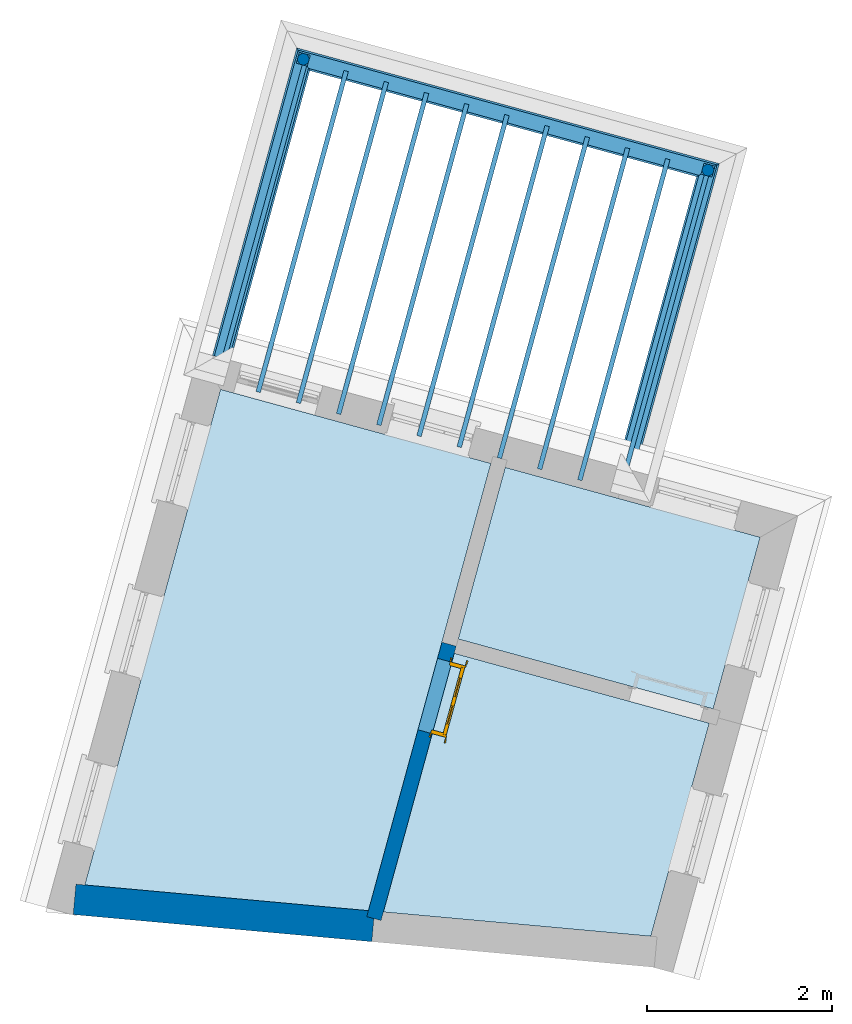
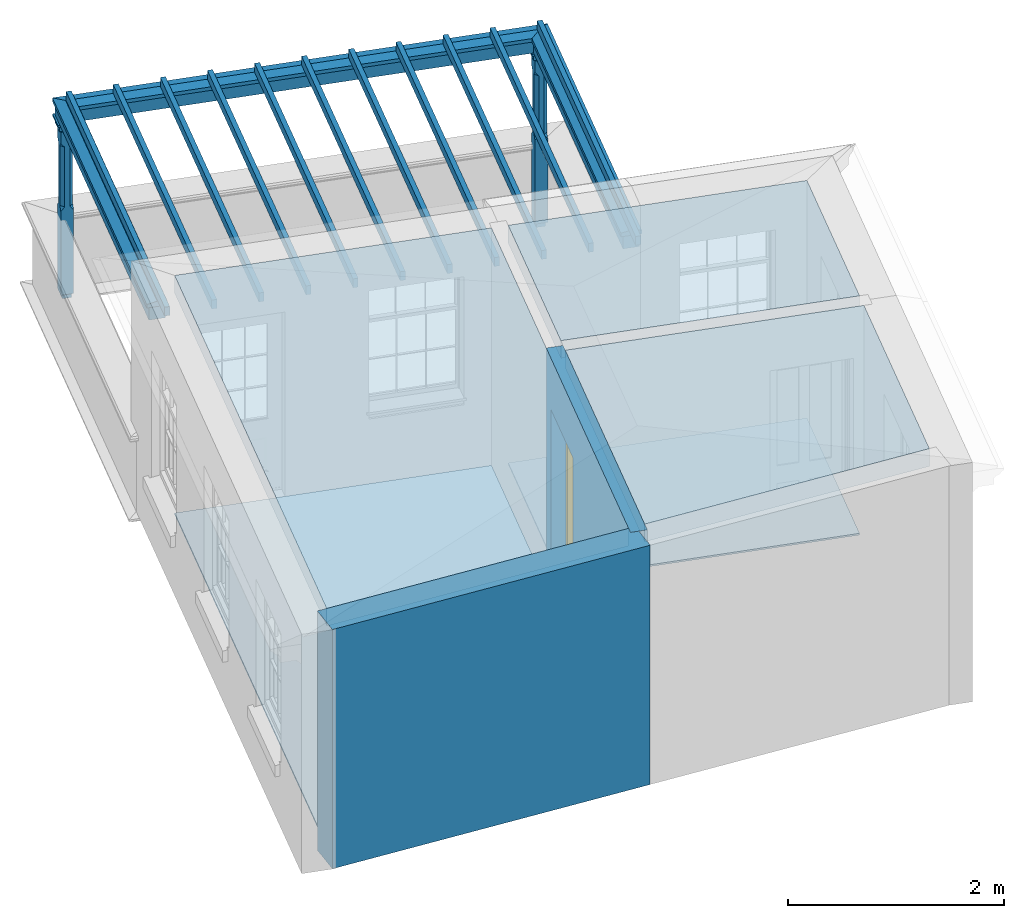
# One storey, part 1 of 4: 17 beams, 5 slabs, 2 columns, 2 walls, 1 door, 1 opening.
"""IFC4 building model written with IfcOpenShell, lengths in metres."""

from ifc_helpers import new_model, si_unit, frame, origin, origin_with_axes, place, context, subcontext, project, spatial, polyline, outline, extrude, clip, halfspace, faceted_brep, source, transform, mapped, material, layer, layer_set, layer_usage, material_profile, profile_set, profile_usage, type_object, type_shapes, element, fill, save


model = new_model("IFC4")

# Units and contexts
model_context = context("Model", 3, world=origin_with_axes())
body_context = subcontext(model_context, "Body", "Model", "MODEL_VIEW")
ifc_project = project(units=[si_unit("PLANEANGLEUNIT", "RADIAN"), si_unit("MASSUNIT", "GRAM", prefix="KILO"), si_unit("FORCEUNIT", "NEWTON", prefix="KILO"), si_unit("LENGTHUNIT", "METRE"), si_unit("AREAUNIT", "SQUARE_METRE"), si_unit("VOLUMEUNIT", "CUBIC_METRE")], contexts=[model_context, model_context])

# Sites, building, storey
site_1_placement = place(None, origin_with_axes())
site_1 = spatial("IfcSite", under=ifc_project, at=site_1_placement, Name="Tamar")
site_2_placement = place(site_1_placement, origin_with_axes())
site_2 = spatial("IfcSite", under=site_1, at=site_2_placement, Name="Site plot-28", CompositionType="ELEMENT")
building_placement = place(None, origin_with_axes())
building = spatial("IfcBuilding", under=site_2, at=building_placement, Name="Building plot-28", CompositionType="ELEMENT")
storey_placement = place(None, frame((0.0, 0.0, 29.85), z_axis=(0.0, 0.0, 1.0), x_axis=(1.0, 0.0, 0.0)))
storey = spatial("IfcBuildingStorey", under=building, at=storey_placement, Name="plot-28 2", CompositionType="ELEMENT", Elevation=29.85)

# Columns
column_type = type_object("IfcColumnType", Name="pergola post", PredefinedType="NOTDEFINED")
shared_shape_1 = source(origin(), body_context, "Body", "Brep", [
    faceted_brep([(0.0246, -0.0615, 1.72), (0.0615, -0.0246, 1.72), (0.0615, -0.0615, 1.766667), (0.0615, -0.0246, 1.044444), (0.0246, -0.0615, 1.044444), (0.0615, 0.0246, 1.72), (0.0615, 0.0615, 1.766667), (-0.0246, -0.0615, 1.72), (-0.0615, -0.0615, 1.766667), (-0.0246, -0.0615, 1.044444), (0.0615, -0.0615, 0.997778), (0.0615, 0.0246, 1.044444), (0.0246, 0.0615, 1.72), (0.0615, 0.0615, 1.891111), (0.0615, -0.0615, 1.891111), (-0.0615, -0.0615, 1.891111), (-0.0615, -0.0246, 1.72), (-0.0615, -0.0246, 1.044444), (-0.0615, -0.0615, 0.997778), (0.0615, 0.0615, 0.997778), (0.0246, 0.0615, 1.044444), (-0.0246, 0.0615, 1.72), (-0.0615, 0.0615, 1.766667), (0.04305, 0.04305, 1.891111), (0.04305, -0.04305, 1.891111), (-0.0615, 0.0615, 1.891111), (-0.04305, -0.04305, 1.891111), (-0.0615, 0.0246, 1.72), (-0.0615, 0.0246, 1.044444), (0.0615, -0.0615, 0.053333), (-0.0615, -0.0615, 0.053333), (0.0615, 0.0615, 0.053333), (-0.0246, 0.0615, 1.044444), (-0.04305, 0.04305, 1.891111), (0.04305, 0.04305, 1.914444), (0.04305, -0.04305, 1.914444), (-0.04305, -0.04305, 1.914444), (-0.0615, 0.0615, 0.997778), (-0.0615, 0.0615, 0.053333), (-0.04305, -0.04305, 0.053333), (0.04305, -0.04305, 0.053333), (0.04305, 0.04305, 0.053333), (-0.04305, 0.04305, 1.914444), (0.07995, 0.07995, 1.914444), (0.07995, -0.07995, 1.914444), (-0.07995, -0.07995, 1.914444), (-0.04305, 0.04305, 0.053333), (-0.04305, -0.04305, 0.0), (0.04305, -0.04305, 0.0), (0.04305, 0.04305, 0.0), (-0.07995, 0.07995, 1.914444), (0.07995, 0.07995, 1.976667), (0.07995, -0.07995, 1.976667), (-0.07995, -0.07995, 1.976667), (-0.04305, 0.04305, 0.0), (-0.07995, 0.07995, 1.976667), (0.0984, 0.0984, 1.976667), (0.0984, -0.0984, 1.976667), (-0.0984, -0.0984, 1.976667), (-0.0984, 0.0984, 1.976667), (0.0984, 0.0984, 2.0), (0.0984, -0.0984, 2.0), (-0.0984, -0.0984, 2.0), (-0.0984, 0.0984, 2.0)], [[[0, 1, 2]], [[3, 1, 0, 4]], [[1, 5, 6, 2]], [[7, 0, 2, 8]], [[4, 0, 7, 9]], [[3, 4, 10]], [[1, 3, 11, 5]], [[5, 12, 6]], [[13, 14, 2, 6]], [[15, 8, 2, 14]], [[8, 16, 7]], [[9, 7, 16, 17]], [[9, 18, 10, 4]], [[3, 10, 19, 11]], [[20, 12, 5, 11]], [[21, 22, 6, 12]], [[14, 13, 23, 24]], [[13, 6, 22, 25]], [[25, 22, 8, 15]], [[26, 15, 14, 24]], [[16, 8, 22, 27]], [[27, 28, 17, 16]], [[17, 18, 9]], [[29, 10, 18, 30]], [[31, 19, 10, 29]], [[20, 11, 19]], [[12, 20, 32, 21]], [[21, 27, 22]], [[33, 23, 13, 25]], [[23, 34, 35, 24]], [[26, 33, 25, 15]], [[36, 26, 24, 35]], [[28, 27, 21, 32]], [[17, 28, 37, 18]], [[38, 30, 18, 37]], [[29, 30, 39, 40]], [[31, 38, 37, 19]], [[40, 41, 31, 29]], [[32, 20, 19, 37]], [[33, 42, 34, 23]], [[43, 44, 35, 34]], [[42, 33, 26, 36]], [[36, 35, 44, 45]], [[28, 32, 37]], [[46, 39, 30, 38]], [[39, 47, 48, 40]], [[46, 38, 31, 41]], [[49, 41, 40, 48]], [[43, 34, 42, 50]], [[43, 51, 52, 44]], [[45, 50, 42, 36]], [[53, 45, 44, 52]], [[46, 54, 47, 39]], [[54, 46, 41, 49]], [[50, 55, 51, 43]], [[56, 57, 52, 51]], [[55, 50, 45, 53]], [[53, 52, 57, 58]], [[56, 51, 55, 59]], [[56, 60, 61, 57]], [[58, 59, 55, 53]], [[62, 58, 57, 61]], [[59, 63, 60, 56]], [[63, 62, 61, 60]], [[58, 62, 63, 59]], [[47, 54, 49, 48]]]),
])
type_shapes(column_type, [shared_shape_1])
for number, where, z_axis, x_axis, name in (
    (1, (265.918112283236, 267.466264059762, 0.0), (0.0, 0.0, 1.0), (-0.964452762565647, 0.264255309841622, 0.0), "pergola post"),
    (2, (261.549386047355, 268.663273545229, 0.0), (0.0, 0.0, 1.0), (-0.26425530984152, -0.964452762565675, 0.0), "pergola post"),
):
    element("IfcColumn", number, at=place(storey_placement, frame(where, z_axis=z_axis, x_axis=x_axis)), inside=storey, type_object=column_type, Name=name, context=body_context, shape_type="MappedRepresentation", body=[
        mapped(shared_shape_1, transform((0.0, 0.0, 0.0), scale=1.0)),
    ])

# Beams
ifc_material_profile_1 = material_profile(None, outline(polyline([(-0.08, -0.7), (0.08, -0.7), (0.08, -0.56), (-0.08, -0.56), (-0.08, -0.7)])))
ifc_profile_set_1 = profile_set([ifc_material_profile_1])
ifc_profile_usage_1 = profile_usage(ifc_profile_set_1)
beam_type_1 = type_object("IfcBeamType", Name="pergola beam_0", PredefinedType="NOTDEFINED", material=ifc_profile_set_1)
beam_1_placement = place(storey_placement, frame((266.182367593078, 268.430716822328, 2.7), z_axis=(-0.264255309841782, -0.964452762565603, 0.0), x_axis=(0.964452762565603, -0.264255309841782, 0.0)))
element("IfcBeam", 3, at=beam_1_placement, inside=storey, type_object=beam_type_1, material=ifc_profile_usage_1, Name="pergola beam_0", context=body_context, shape_type="Clipping", body=[
    clip(clip(extrude(outline(polyline([(-0.08, -0.7), (0.08, -0.7), (0.08, -0.56), (-0.08, -0.56), (-0.08, -0.7)])), origin_with_axes(), (0.0, 0.0, 1.0), 5.34326696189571), halfspace(frame((0.0, 0.0, 4.34326696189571), z_axis=(-2.24877374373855e-14, 0.0, -1.0), x_axis=(0.0, 1.0, 0.0)), True)), halfspace(frame((0.0, 0.0, 1.0), z_axis=(-0.707106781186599, 0.0, -0.707106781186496), x_axis=(0.0, 1.0, 0.0)), False)),
])
ifc_profile_usage_2 = profile_usage(ifc_profile_set_1)
beam_2_placement = place(storey_placement, frame((260.584933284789, 268.927528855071, 2.7), z_axis=(0.964452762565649, -0.264255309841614, 0.0), x_axis=(0.264255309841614, 0.964452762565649, 0.0)))
element("IfcBeam", 4, at=beam_2_placement, inside=storey, type_object=beam_type_1, material=ifc_profile_usage_2, Name="pergola beam_0", context=body_context, shape_type="Clipping", body=[
    clip(clip(extrude(outline(polyline([(-0.08, -0.7), (0.08, -0.7), (0.08, -0.56), (-0.08, -0.56), (-0.08, -0.7)])), origin_with_axes(), (0.0, 0.0, 1.0), 6.5297461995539), halfspace(frame((0.0, 0.0, 5.5297461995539), z_axis=(0.707106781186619, 0.0, -0.707106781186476), x_axis=(0.0, 1.0, 0.0)), True)), halfspace(frame((0.0, 0.0, 1.0), z_axis=(-0.707106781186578, 0.0, -0.707106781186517), x_axis=(0.0, 1.0, 0.0)), False)),
])
ifc_profile_usage_3 = profile_usage(ifc_profile_set_1)
beam_3_placement = place(storey_placement, frame((260.401654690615, 264.474397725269, 2.7), z_axis=(0.264255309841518, 0.964452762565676, 0.0), x_axis=(-0.964452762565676, 0.264255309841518, 0.0)))
element("IfcBeam", 5, at=beam_3_placement, inside=storey, type_object=beam_type_1, material=ifc_profile_usage_3, Name="pergola beam_0", context=body_context, shape_type="Clipping", body=[
    clip(clip(extrude(outline(polyline([(-0.08, -0.7), (0.08, -0.7), (0.08, -0.56), (-0.08, -0.56), (-0.08, -0.7)])), origin_with_axes(), (0.0, 0.0, 1.0), 5.3432669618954), halfspace(frame((0.0, 0.0, 4.3432669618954), z_axis=(0.707106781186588, 0.0, -0.707106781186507), x_axis=(0.0, 1.0, 0.0)), True)), halfspace(frame((0.0, 0.0, 1.0), z_axis=(1.6814157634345e-14, 0.0, -1.0), x_axis=(0.0, 1.0, 0.0)), False)),
])
ifc_material_profile_2 = material_profile(None, outline(polyline([(0.0, -0.5), (-0.1, -0.52), (-0.1, -0.56), (0.1, -0.56), (0.1, -0.52), (0.0, -0.5)])))
ifc_profile_set_2 = profile_set([ifc_material_profile_2])
ifc_profile_usage_4 = profile_usage(ifc_profile_set_2)
beam_type_2 = type_object("IfcBeamType", Name="pergola beam_1", PredefinedType="NOTDEFINED", material=ifc_profile_set_2)
beam_4_placement = place(storey_placement, frame((266.182367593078, 268.430716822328, 2.7), z_axis=(-0.264255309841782, -0.964452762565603, 0.0), x_axis=(0.964452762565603, -0.264255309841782, 0.0)))
element("IfcBeam", 6, at=beam_4_placement, inside=storey, type_object=beam_type_2, material=ifc_profile_usage_4, Name="pergola beam_1", context=body_context, shape_type="Clipping", body=[
    clip(clip(extrude(outline(polyline([(0.0, -0.5), (-0.1, -0.52), (-0.1, -0.56), (0.1, -0.56), (0.1, -0.52), (0.0, -0.5)])), origin_with_axes(), (0.0, 0.0, 1.0), 5.34326696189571), halfspace(frame((0.0, 0.0, 4.34326696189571), z_axis=(-2.24877374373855e-14, 0.0, -1.0), x_axis=(0.0, 1.0, 0.0)), True)), halfspace(frame((0.0, 0.0, 1.0), z_axis=(-0.707106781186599, 0.0, -0.707106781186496), x_axis=(0.0, 1.0, 0.0)), False)),
])
ifc_profile_usage_5 = profile_usage(ifc_profile_set_2)
beam_5_placement = place(storey_placement, frame((260.584933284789, 268.927528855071, 2.7), z_axis=(0.964452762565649, -0.264255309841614, 0.0), x_axis=(0.264255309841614, 0.964452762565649, 0.0)))
element("IfcBeam", 7, at=beam_5_placement, inside=storey, type_object=beam_type_2, material=ifc_profile_usage_5, Name="pergola beam_1", context=body_context, shape_type="Clipping", body=[
    clip(clip(extrude(outline(polyline([(0.0, -0.5), (-0.1, -0.52), (-0.1, -0.56), (0.1, -0.56), (0.1, -0.52), (0.0, -0.5)])), origin_with_axes(), (0.0, 0.0, 1.0), 6.5297461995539), halfspace(frame((0.0, 0.0, 5.5297461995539), z_axis=(0.707106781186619, 0.0, -0.707106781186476), x_axis=(0.0, 1.0, 0.0)), True)), halfspace(frame((0.0, 0.0, 1.0), z_axis=(-0.707106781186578, 0.0, -0.707106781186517), x_axis=(0.0, 1.0, 0.0)), False)),
])
ifc_profile_usage_6 = profile_usage(ifc_profile_set_2)
beam_6_placement = place(storey_placement, frame((260.401654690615, 264.474397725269, 2.7), z_axis=(0.264255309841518, 0.964452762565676, 0.0), x_axis=(-0.964452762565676, 0.264255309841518, 0.0)))
element("IfcBeam", 8, at=beam_6_placement, inside=storey, type_object=beam_type_2, material=ifc_profile_usage_6, Name="pergola beam_1", context=body_context, shape_type="Clipping", body=[
    clip(clip(extrude(outline(polyline([(0.0, -0.5), (-0.1, -0.52), (-0.1, -0.56), (0.1, -0.56), (0.1, -0.52), (0.0, -0.5)])), origin_with_axes(), (0.0, 0.0, 1.0), 5.3432669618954), halfspace(frame((0.0, 0.0, 4.3432669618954), z_axis=(0.707106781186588, 0.0, -0.707106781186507), x_axis=(0.0, 1.0, 0.0)), True)), halfspace(frame((0.0, 0.0, 1.0), z_axis=(1.6814157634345e-14, 0.0, -1.0), x_axis=(0.0, 1.0, 0.0)), False)),
])
beam_7_placement = place(storey_placement, frame((265.9422236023, 267.459657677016, 2.2)))
element("IfcBeam", 9, at=beam_7_placement, inside=storey, Name="My Beam", ObjectType="Beam", context=body_context, shape_type="SweptSolid", body=[
    extrude(outline(polyline([(0.0, 0.0), (-0.0482226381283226, 0.0132127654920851), (-0.997762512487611, -3.4523234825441), (-0.949539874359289, -3.46553624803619), (0.0, 0.0)])), origin_with_axes(), (0.0, 0.0, 1.0), 0.1),
])
beam_8_placement = place(storey_placement, frame((265.508219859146, 267.578572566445, 2.2)))
element("IfcBeam", 10, at=beam_8_placement, inside=storey, Name="My Beam", ObjectType="Beam", context=body_context, shape_type="SweptSolid", body=[
    extrude(outline(polyline([(0.0, 0.0), (-0.0482226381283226, 0.0132127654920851), (-0.997762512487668, -3.45232348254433), (-0.949539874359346, -3.46553624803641), (0.0, 0.0)])), origin_with_axes(), (0.0, 0.0, 1.0), 0.1),
])
beam_9_placement = place(storey_placement, frame((265.074216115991, 267.697487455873, 2.2)))
element("IfcBeam", 11, at=beam_9_placement, inside=storey, Name="My Beam", ObjectType="Beam", context=body_context, shape_type="SweptSolid", body=[
    extrude(outline(polyline([(0.0, 0.0), (-0.0482226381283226, 0.0132127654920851), (-0.997762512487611, -3.45232348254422), (-0.949539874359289, -3.4655362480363), (0.0, 0.0)])), origin_with_axes(), (0.0, 0.0, 1.0), 0.1),
])
beam_10_placement = place(storey_placement, frame((264.640212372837, 267.816402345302, 2.2)))
element("IfcBeam", 12, at=beam_10_placement, inside=storey, Name="My Beam", ObjectType="Beam", context=body_context, shape_type="SweptSolid", body=[
    extrude(outline(polyline([(0.0, 0.0), (-0.0482226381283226, 0.0132127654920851), (-0.997762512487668, -3.45232348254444), (-0.949539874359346, -3.46553624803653), (0.0, 0.0)])), origin_with_axes(), (0.0, 0.0, 1.0), 0.1),
])
for number, where, name in (
    (13, (264.206208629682, 267.935317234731, 2.2), "My Beam"),
    (14, (263.772204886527, 268.05423212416, 2.2), "My Beam"),
):
    element("IfcBeam", number, at=place(storey_placement, frame(where)), inside=storey, Name=name, ObjectType="Beam", context=body_context, shape_type="SweptSolid", body=[
        extrude(outline(polyline([(0.0, 0.0), (-0.0482226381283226, 0.0132127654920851), (-0.997762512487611, -3.4523234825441), (-0.949539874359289, -3.46553624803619), (0.0, 0.0)])), origin_with_axes(), (0.0, 0.0, 1.0), 0.1),
    ])
beam_11_placement = place(storey_placement, frame((263.338201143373, 268.173147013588, 2.2)))
element("IfcBeam", 15, at=beam_11_placement, inside=storey, Name="My Beam", ObjectType="Beam", context=body_context, shape_type="SweptSolid", body=[
    extrude(outline(polyline([(0.0, 0.0), (-0.0482226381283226, 0.0132127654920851), (-0.997762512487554, -3.45232348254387), (-0.949539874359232, -3.46553624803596), (0.0, 0.0)])), origin_with_axes(), (0.0, 0.0, 1.0), 0.1),
])
beam_12_placement = place(storey_placement, frame((262.904197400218, 268.292061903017, 2.2)))
element("IfcBeam", 16, at=beam_12_placement, inside=storey, Name="My Beam", ObjectType="Beam", context=body_context, shape_type="SweptSolid", body=[
    extrude(outline(polyline([(0.0, 0.0), (-0.0482226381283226, 0.0132127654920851), (-0.997762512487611, -3.4523234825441), (-0.949539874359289, -3.46553624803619), (0.0, 0.0)])), origin_with_axes(), (0.0, 0.0, 1.0), 0.1),
])
for number, where, name in (
    (17, (262.470193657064, 268.410976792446, 2.2), "My Beam"),
    (18, (262.036189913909, 268.529891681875, 2.2), "My Beam"),
    (19, (261.602186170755, 268.648806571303, 2.2), "My Beam"),
):
    element("IfcBeam", number, at=place(storey_placement, frame(where)), inside=storey, Name=name, ObjectType="Beam", context=body_context, shape_type="SweptSolid", body=[
        extrude(outline(polyline([(0.0, 0.0), (-0.0482226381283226, 0.0132127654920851), (-0.997762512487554, -3.45232348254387), (-0.949539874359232, -3.46553624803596), (0.0, 0.0)])), origin_with_axes(), (0.0, 0.0, 1.0), 0.1),
    ])

# Slabs
slab_1_placement = place(storey_placement, frame((259.189981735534, 259.749416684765, 2.5)))
element("IfcSlab", 20, at=slab_1_placement, inside=storey, Name="My Slab", ObjectType="Slab", PredefinedType="FLOOR", context=body_context, shape_type="SweptSolid", body=[
    extrude(outline(polyline([(0.0, 0.0), (3.06223774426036, -0.277500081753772), (4.38500341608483, 4.55019858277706), (1.46588023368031, 5.35002396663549), (0.0, 0.0)])), origin_with_axes(), (0.0, 0.0, 1.0), 0.2),
])
slab_2_placement = place(storey_placement, frame((259.189981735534, 259.749416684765, 0.0)))
element("IfcSlab", 21, at=slab_2_placement, inside=storey, Name="My Slab", ObjectType="Slab", PredefinedType="FLOOR", context=body_context, shape_type="SweptSolid", body=[
    extrude(outline(polyline([(0.0, 0.0), (3.06223774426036, -0.277500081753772), (4.38500341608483, 4.55019858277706), (1.46588023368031, 5.35002396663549), (0.0, 0.0)])), origin_with_axes(), (0.0, 0.0, 1.0), 0.02),
])
slab_3_placement = place(storey_placement, frame((265.301564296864, 259.19558487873, 2.5)))
element("IfcSlab", 22, at=slab_3_placement, inside=storey, Name="My Slab", ObjectType="Slab", PredefinedType="FLOOR", context=body_context, shape_type="SweptSolid", body=[
    extrude(outline(polyline([(0.0, 0.0), (0.630315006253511, 2.300461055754), (-2.12220536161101, 3.05463808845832), (-2.88746696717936, 0.261662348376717), (0.0, 0.0)])), origin_with_axes(), (0.0, 0.0, 1.0), 0.2),
])
slab_4_placement = place(storey_placement, frame((265.974160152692, 261.650358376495, 2.5)))
element("IfcSlab", 23, at=slab_4_placement, inside=storey, Name="My Slab", ObjectType="Slab", PredefinedType="FLOOR", context=body_context, shape_type="SweptSolid", body=[
    extrude(outline(polyline([(0.0, 0.0), (0.507657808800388, 1.85279900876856), (-2.24486255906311, 2.60697604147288), (-2.75252036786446, 0.754177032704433), (0.0, 0.0)])), origin_with_axes(), (0.0, 0.0, 1.0), 0.2),
])
slab_5_placement = place(storey_placement, frame((265.974160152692, 261.650358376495, 0.0)))
element("IfcSlab", 24, at=slab_5_placement, inside=storey, Name="My Slab", ObjectType="Slab", PredefinedType="FLOOR", context=body_context, shape_type="SweptSolid", body=[
    extrude(outline(polyline([(0.0, 0.0), (0.507657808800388, 1.85279900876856), (-2.24486255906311, 2.60697604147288), (-2.75252036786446, 0.754177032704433), (0.0, 0.0)])), origin_with_axes(), (0.0, 0.0, 1.0), 0.02),
])

# Wall
ifc_material_1 = material(Name="Masonry")
ifc_layer_1 = layer(ifc_material_1, 0.33, ventilated=False)
ifc_layer_set_1 = layer_set([ifc_layer_1], Name="party_0.08_0.25")
ifc_layer_usage_1 = layer_usage(ifc_layer_set_1, "AXIS2", "POSITIVE", -0.25)
wall_type_1 = type_object("IfcWallType", Name="party_0.08_0.25", PredefinedType="SOLIDWALL", material=ifc_layer_set_1)
wall_1_placement = place(storey_placement, frame((259.087566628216, 259.678369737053, 0.0), z_axis=(0.0, 0.0, 1.0), x_axis=(0.99591912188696, -0.0902502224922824, 0.0)))
element("IfcWall", 25, at=wall_1_placement, inside=storey, type_object=wall_type_1, material=ifc_layer_usage_1, Name="party", context=body_context, shape_type="SweptSolid", body=[
    extrude(outline(polyline([(1.58322380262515e-14, 0.0799999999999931), (-2.42487861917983e-14, -0.250000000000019), (3.23732672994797, -0.250000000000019), (3.23732672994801, 0.0799999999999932), (1.58322380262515e-14, 0.0799999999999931)])), origin_with_axes(), (0.0, 0.0, 1.0), 2.7),
])

# Wall, opening, door
ifc_material_2 = material(Name="Masonry")
ifc_layer_2 = layer(ifc_material_2, 0.16, ventilated=False)
ifc_layer_set_2 = layer_set([ifc_layer_2], Name="interior_0.08_0.08")
ifc_layer_usage_2 = layer_usage(ifc_layer_set_2, "AXIS2", "POSITIVE", -0.08)
wall_type_2 = type_object("IfcWallType", Name="interior_0.08_0.08", PredefinedType="SOLIDWALL", material=ifc_layer_set_2)
wall_2_placement = place(storey_placement, frame((263.123343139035, 262.348519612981, 0.0), z_axis=(0.0, 0.0, 1.0), x_axis=(-0.264255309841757, -0.96445276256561, 0.0)))
wall_2 = element("IfcWall", 26, at=wall_2_placement, inside=storey, type_object=wall_type_2, material=ifc_layer_usage_2, Name="interior", context=body_context, shape_type="SweptSolid", body=[
    extrude(outline(polyline([(1.28461277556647e-14, 0.0799999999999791), (-1.28914520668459e-14, -0.0799999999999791), (3.07150277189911, -0.0799999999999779), (3.07150277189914, 0.0799999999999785), (1.28461277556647e-14, 0.0799999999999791)])), origin_with_axes(), (0.0, 0.0, 1.0), 2.7),
])
opening_placement = place(wall_2_placement, frame((0.180000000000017, 0.0, 0.0199999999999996)))
opening = element("IfcOpeningElement", 27, at=opening_placement, cuts=wall_2, Name="My Opening", ObjectType="Opening", context=body_context, shape_type="SweptSolid", body=[
    extrude(outline(polyline([(0.0, -0.100000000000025), (0.799999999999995, -0.100000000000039), (0.799999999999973, 1.1), (-2.19546603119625e-14, 1.10000000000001), (0.0, -0.100000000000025)])), origin_with_axes(), (0.0, 0.0, 1.0), 2.1),
])
door_type = type_object("IfcDoorType", Name="door_inside", OperationType="SINGLE_SWING_LEFT", PredefinedType="NOTDEFINED")
shared_shape_2 = source(origin(), body_context, "Body", "Brep", [
    faceted_brep([(0.773, 0.33, 1.895), (0.66, 0.33, 1.895), (0.66, 0.33, 2.073), (0.773, 0.33, 2.073), (0.773, 0.33, 0.82), (0.66, 0.33, 0.82), (0.45, 0.33, 1.895), (0.45, 0.33, 2.073), (0.773, 0.33, 0.62), (0.66, 0.33, 0.62), (0.66, 0.315, 0.82), (0.66, 0.315, 1.895), (0.45, 0.315, 1.895), (0.35, 0.33, 1.895), (0.35, 0.33, 2.073), (0.773, 0.33, 0.225), (0.66, 0.33, 0.225), (0.45, 0.33, 0.62), (0.45, 0.33, 0.82), (0.45, 0.315, 0.82), (0.35, 0.33, 0.82), (0.14, 0.33, 2.073), (0.14, 0.33, 1.895), (0.773, 0.33, 0.0), (0.66, 0.33, 0.0), (0.66, 0.315, 0.225), (0.66, 0.315, 0.62), (0.45, 0.315, 0.62), (0.35, 0.33, 0.62), (0.35, 0.315, 0.82), (0.35, 0.315, 1.895), (0.14, 0.315, 1.895), (0.027, 0.33, 2.073), (0.027, 0.33, 1.895), (0.773, 0.292, 0.0), (0.66, 0.292, 0.0), (0.45, 0.33, 0.0), (0.45, 0.33, 0.225), (0.45, 0.315, 0.225), (0.35, 0.33, 0.225), (0.14, 0.33, 0.82), (0.14, 0.33, 0.62), (0.14, 0.315, 0.82), (0.027, 0.33, 0.82), (0.773, 0.292, 0.225), (0.66, 0.292, 0.225), (0.45, 0.292, 0.0), (0.35, 0.33, 0.0), (0.35, 0.315, 0.225), (0.35, 0.315, 0.62), (0.14, 0.315, 0.62), (0.027, 0.33, 0.62), (0.773, 0.292, 0.62), (0.66, 0.292, 0.62), (0.45, 0.292, 0.225), (0.35, 0.292, 0.0), (0.14, 0.33, 0.225), (0.14, 0.33, 0.0), (0.14, 0.315, 0.225), (0.027, 0.33, 0.225), (0.773, 0.292, 0.82), (0.66, 0.292, 0.82), (0.66, 0.307, 0.62), (0.66, 0.307, 0.225), (0.45, 0.307, 0.225), (0.35, 0.292, 0.225), (0.14, 0.292, 0.0), (0.027, 0.33, 0.0), (0.773, 0.292, 1.895), (0.66, 0.292, 1.895), (0.45, 0.292, 0.62), (0.45, 0.292, 0.82), (0.45, 0.307, 0.62), (0.35, 0.292, 0.62), (0.14, 0.292, 0.225), (0.027, 0.292, 0.0), (0.773, 0.292, 2.073), (0.66, 0.292, 2.073), (0.66, 0.307, 1.895), (0.66, 0.307, 0.82), (0.45, 0.307, 0.82), (0.35, 0.292, 0.82), (0.35, 0.307, 0.62), (0.35, 0.307, 0.225), (0.14, 0.307, 0.225), (0.027, 0.292, 0.225), (0.45, 0.292, 1.895), (0.45, 0.292, 2.073), (0.45, 0.307, 1.895), (0.35, 0.292, 1.895), (0.14, 0.292, 0.82), (0.14, 0.292, 0.62), (0.14, 0.307, 0.62), (0.027, 0.292, 0.62), (0.35, 0.292, 2.073), (0.35, 0.307, 1.895), (0.35, 0.307, 0.82), (0.14, 0.307, 0.82), (0.027, 0.292, 0.82), (0.14, 0.292, 2.073), (0.14, 0.292, 1.895), (0.14, 0.307, 1.895), (0.027, 0.292, 1.895), (0.027, 0.292, 2.073), (0.02, 0.335, 0.0), (0.005, 0.34, 0.0), (0.005, 0.34, 2.095), (0.02, 0.335, 2.08), (0.02, 0.33, 0.0), (0.0, 0.335, 0.0), (0.0, 0.335, 2.1), (0.795, 0.34, 2.095), (0.78, 0.335, 2.08), (0.02, 0.33, 2.08), (0.0, 0.33, 0.0), (-0.032, 0.345, 0.0), (-0.032, 0.345, 2.132), (0.8, 0.335, 2.1), (0.795, 0.34, 0.0), (0.78, 0.335, 0.0), (0.78, 0.33, 2.08), (0.04, 0.29, 0.0), (0.025, 0.29, 0.0), (0.025, 0.29, 2.075), (0.04, 0.29, 2.06), (-0.04, 0.34, 0.0), (-0.04, 0.34, 2.14), (0.832, 0.345, 2.132), (0.8, 0.335, 0.0), (0.78, 0.33, 0.0), (0.8, 0.33, 0.0), (0.86, 0.33, 0.0), (0.86, 0.33, 2.16), (0.8, 0.33, 2.1), (-0.06, 0.33, 2.16), (0.0, 0.33, 2.1), (-0.06, 0.33, 0.0), (-0.04, 0.345, 0.0), (-0.04, 0.345, 2.14), (0.84, 0.34, 2.14), (0.832, 0.345, 0.0), (0.84, 0.34, 0.0), (0.86, 0.345, 0.0), (0.86, 0.345, 2.16), (-0.06, 0.345, 2.16), (-0.06, 0.345, 0.0), (0.84, 0.345, 0.0), (0.84, 0.345, 2.14), (-0.025, 0.155, 0.0), (-0.025, 0.16, 0.0), (-0.025, 0.16, 2.125), (-0.025, 0.155, 2.125), (-0.017, 0.155, 0.0), (-0.017, 0.155, 2.117), (0.825, 0.16, 2.125), (0.825, 0.155, 2.125), (0.825, 0.155, 0.0), (0.845, 0.155, 0.0), (-0.045, 0.155, 2.145), (-0.045, 0.155, 0.0), (0.845, 0.155, 2.145), (0.015, 0.165, 0.0), (0.015, 0.165, 2.085), (0.817, 0.155, 2.117), (0.825, 0.16, 0.0), (0.845, 0.17, 0.0), (0.845, 0.17, 2.145), (-0.045, 0.17, 2.145), (-0.045, 0.17, 0.0), (0.02, 0.16, 0.0), (0.02, 0.16, 2.08), (0.785, 0.165, 2.085), (0.817, 0.155, 0.0), (0.8, 0.17, 0.0), (0.8, 0.17, 2.1), (0.0, 0.17, 2.1), (0.0, 0.17, 0.0), (0.035, 0.165, 0.0), (0.035, 0.165, 2.065), (0.78, 0.16, 2.08), (0.785, 0.165, 0.0), (0.775, 0.29, 2.075), (0.76, 0.29, 2.06), (0.035, 0.17, 2.065), (0.035, 0.17, 0.0), (0.765, 0.165, 2.065), (0.78, 0.16, 0.0), (0.765, 0.17, 0.0), (0.765, 0.17, 2.065), (0.765, 0.165, 0.0), (0.04, 0.17, 2.06), (0.04, 0.17, 0.0), (0.76, 0.17, 2.06), (0.76, 0.17, 0.0), (0.76, 0.29, 0.0), (0.775, 0.29, 0.0), (0.025, 0.33, 0.0), (0.025, 0.33, 2.075), (0.775, 0.33, 0.0), (0.775, 0.33, 2.075)], [[[0, 1, 2, 3]], [[1, 0, 4, 5]], [[1, 6, 7, 2]], [[8, 9, 5, 4]], [[1, 5, 10, 11]], [[6, 1, 11, 12]], [[6, 13, 14, 7]], [[15, 16, 9, 8]], [[9, 17, 18, 5]], [[5, 18, 19, 10]], [[10, 19, 12, 11]], [[18, 6, 12, 19]], [[18, 20, 13, 6]], [[21, 14, 13, 22]], [[23, 24, 16, 15]], [[9, 16, 25, 26]], [[17, 9, 26, 27]], [[17, 28, 20, 18]], [[13, 20, 29, 30]], [[22, 13, 30, 31]], [[32, 21, 22, 33]], [[34, 35, 24, 23]], [[24, 36, 37, 16]], [[16, 37, 38, 25]], [[25, 38, 27, 26]], [[37, 17, 27, 38]], [[37, 39, 28, 17]], [[40, 20, 28, 41]], [[20, 40, 42, 29]], [[31, 30, 29, 42]], [[40, 22, 31, 42]], [[33, 22, 40, 43]], [[35, 34, 44, 45]], [[35, 46, 36, 24]], [[36, 47, 39, 37]], [[28, 39, 48, 49]], [[41, 28, 49, 50]], [[43, 40, 41, 51]], [[45, 44, 52, 53]], [[46, 35, 45, 54]], [[46, 55, 47, 36]], [[56, 39, 47, 57]], [[39, 56, 58, 48]], [[50, 49, 48, 58]], [[56, 41, 50, 58]], [[51, 41, 56, 59]], [[53, 52, 60, 61]], [[45, 53, 62, 63]], [[54, 45, 63, 64]], [[55, 46, 54, 65]], [[55, 66, 57, 47]], [[59, 56, 57, 67]], [[61, 60, 68, 69]], [[70, 53, 61, 71]], [[53, 70, 72, 62]], [[72, 64, 63, 62]], [[70, 54, 64, 72]], [[65, 54, 70, 73]], [[65, 74, 66, 55]], [[67, 57, 66, 75]], [[69, 68, 76, 77]], [[61, 69, 78, 79]], [[71, 61, 79, 80]], [[73, 70, 71, 81]], [[65, 73, 82, 83]], [[74, 65, 83, 84]], [[74, 85, 75, 66]], [[86, 69, 77, 87]], [[69, 86, 88, 78]], [[88, 80, 79, 78]], [[86, 71, 80, 88]], [[81, 71, 86, 89]], [[73, 81, 90, 91]], [[73, 91, 92, 82]], [[83, 82, 92, 84]], [[91, 74, 84, 92]], [[91, 93, 85, 74]], [[89, 86, 87, 94]], [[81, 89, 95, 96]], [[90, 81, 96, 97]], [[90, 98, 93, 91]], [[94, 99, 100, 89]], [[89, 100, 101, 95]], [[101, 97, 96, 95]], [[100, 90, 97, 101]], [[100, 102, 98, 90]], [[99, 103, 102, 100]], [[32, 103, 99, 21]], [[102, 103, 32, 33]], [[98, 102, 33, 43]], [[21, 99, 94, 14]], [[94, 87, 7, 14]], [[7, 87, 77, 2]], [[76, 3, 2, 77]], [[43, 51, 93, 98]], [[51, 59, 85, 93]], [[67, 75, 85, 59]], [[34, 23, 15, 44]], [[44, 15, 8, 52]], [[52, 8, 4, 60]], [[0, 68, 60, 4]], [[0, 3, 76, 68]], [[104, 105, 106, 107]], [[104, 108, 109, 105]], [[105, 109, 110, 106]], [[107, 106, 111, 112]], [[107, 113, 108, 104]], [[114, 109, 108]], [[109, 115, 116, 110]], [[106, 110, 117, 111]], [[112, 111, 118, 119]], [[113, 107, 112, 120]], [[121, 122, 123, 124]], [[115, 109, 114, 125]], [[115, 125, 126, 116]], [[110, 116, 127, 117]], [[111, 117, 128, 118]], [[118, 128, 129, 119]], [[120, 112, 119, 129]], [[130, 129, 128]], [[130, 131, 132, 133]], [[133, 132, 134, 135]], [[135, 134, 136, 114]], [[136, 125, 114]], [[125, 137, 138, 126]], [[116, 126, 139, 127]], [[117, 127, 140, 128]], [[141, 130, 128, 140]], [[131, 130, 141]], [[131, 142, 143, 132]], [[132, 143, 144, 134]], [[134, 144, 145, 136]], [[137, 125, 136, 145]], [[143, 142, 146]], [[143, 146, 147]], [[137, 145, 144]], [[143, 147, 138]], [[138, 137, 144]], [[143, 138, 144]], [[126, 138, 147, 139]], [[127, 139, 141, 140]], [[142, 131, 141, 146]], [[139, 147, 146, 141]], [[148, 149, 150, 151]], [[149, 152, 153, 150]], [[151, 150, 154, 155]], [[155, 156, 157]], [[158, 159, 148]], [[158, 148, 151]], [[155, 157, 160]], [[158, 151, 155]], [[155, 160, 158]], [[152, 161, 162, 153]], [[150, 153, 163, 154]], [[155, 154, 164, 156]], [[156, 164, 165, 157]], [[157, 165, 166, 160]], [[160, 166, 167, 158]], [[158, 167, 168, 159]], [[161, 169, 170, 162]], [[153, 162, 171, 163]], [[154, 163, 172, 164]], [[165, 164, 173]], [[165, 173, 174, 166]], [[166, 174, 175, 167]], [[167, 175, 176, 168]], [[169, 177, 178, 170]], [[162, 170, 179, 171]], [[163, 171, 180, 172]], [[172, 180, 173, 164]], [[124, 123, 181, 182]], [[183, 178, 177, 184]], [[170, 178, 185, 179]], [[171, 179, 186, 180]], [[187, 173, 180]], [[185, 188, 187, 189]], [[188, 185, 178, 183]], [[179, 185, 189, 186]], [[189, 187, 180, 186]], [[190, 183, 184, 191]], [[192, 188, 183, 190]], [[191, 184, 122, 121]], [[124, 190, 191, 121]], [[193, 187, 188, 192]], [[182, 192, 190, 124]], [[184, 176, 122]], [[194, 195, 187, 193]], [[192, 182, 194, 193]], [[161, 176, 184]], [[114, 108, 122, 176]], [[173, 187, 195]], [[152, 149, 176, 161]], [[169, 161, 184, 177]], [[196, 122, 108]], [[176, 175, 135, 114]], [[173, 195, 129, 130]], [[176, 149, 168]], [[123, 122, 196, 197]], [[196, 108, 113, 197]], [[175, 174, 133, 135]], [[198, 129, 195]], [[133, 174, 173, 130]], [[159, 168, 149, 148]], [[181, 123, 197, 199]], [[197, 113, 120, 199]], [[199, 120, 129, 198]], [[195, 181, 199, 198]], [[195, 194, 182, 181]]]),
])
type_shapes(door_type, [shared_shape_2])
door_placement = place(storey_placement, frame((262.979331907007, 262.201343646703, 0.0199999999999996), z_axis=(0.0, 0.0, 1.0), x_axis=(-0.211404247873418, -0.77156221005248, 0.0)))
door = element("IfcDoor", 28, at=door_placement, inside=storey, type_object=door_type, Name="bedroom inside door", OverallHeight=2.1, OverallWidth=0.8, context=body_context, shape_type="MappedRepresentation", body=[
    mapped(shared_shape_2, transform((0.0, 0.0, 0.0), scale=1.0)),
])
fill(opening, door)

save(model, "model.ifc")
